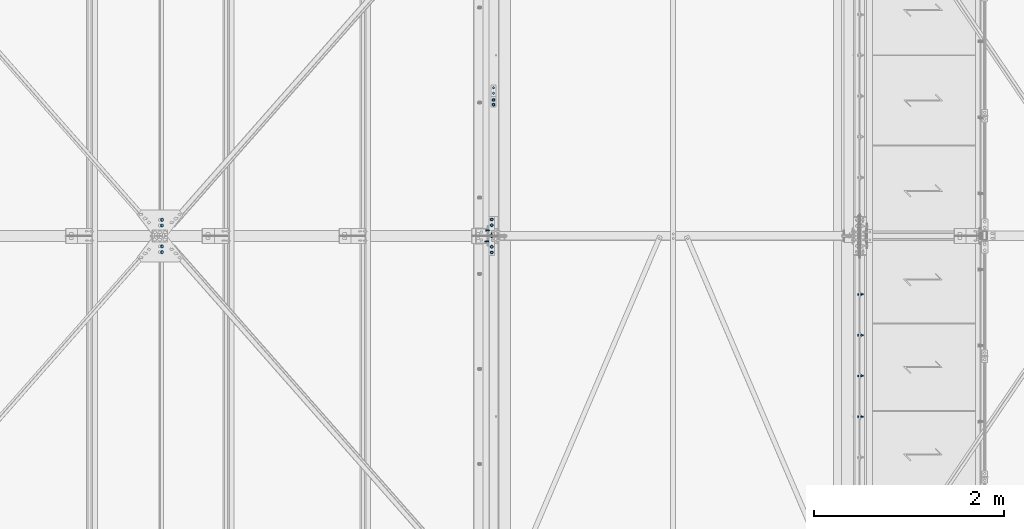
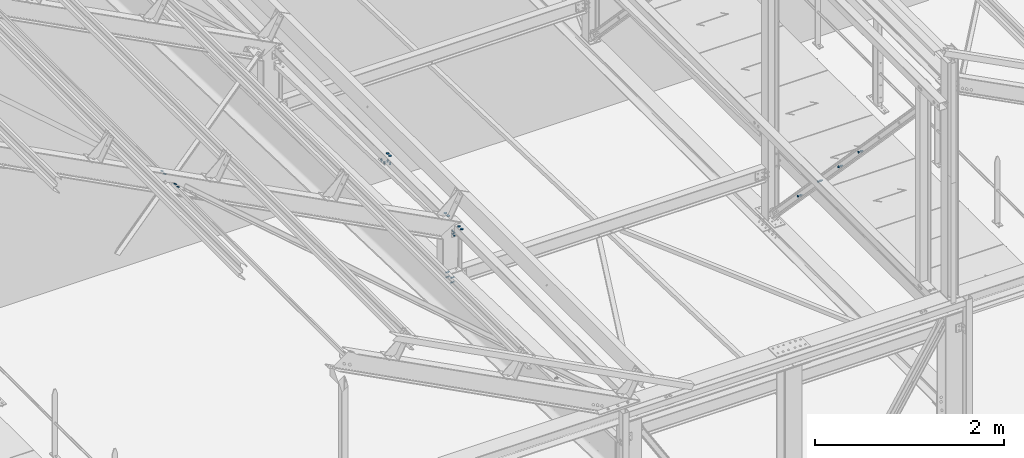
# One storey, part 262 of 362: 14 mechanical fasteners.
"""IFC2X3 building model written with IfcOpenShell, lengths in millimetres."""

from ifc_helpers import new_model, si_unit, frame, frame_2d, origin_with_axes, origin_2d_with_axis, place, context, subcontext, project, spatial, polyline, circle_curve, parameter, trimmed, segment, composite_curve, circle, outline, extrude, source, transform, mapped, material, type_object, element, save


model = new_model("IFC2X3")

# Units and contexts
model_context = context("Model", 3, precision=1e-05, world=origin_with_axes())
body_context = subcontext(model_context, "Body", "Model", "MODEL_VIEW")
ifc_project = project(units=[si_unit("LENGTHUNIT", "METRE", prefix="MILLI"), si_unit("AREAUNIT", "SQUARE_METRE"), si_unit("VOLUMEUNIT", "CUBIC_METRE"), si_unit("MASSUNIT", "GRAM", prefix="KILO"), si_unit("TIMEUNIT", "SECOND"), si_unit("PLANEANGLEUNIT", "RADIAN"), si_unit("SOLIDANGLEUNIT", "STERADIAN"), si_unit("THERMODYNAMICTEMPERATUREUNIT", "DEGREE_CELSIUS"), si_unit("LUMINOUSINTENSITYUNIT", "LUMEN")], contexts=[model_context])

# Site, building, storey
site_placement = place(None, origin_with_axes())
site = spatial("IfcSite", under=ifc_project, at=site_placement, Name="Undefined", CompositionType="ELEMENT")
building_placement = place(site_placement, origin_with_axes())
building = spatial("IfcBuilding", under=site, at=building_placement, Name="Undefined", CompositionType="ELEMENT")
storey_placement = place(building_placement, origin_with_axes())
storey = spatial("IfcBuildingStorey", under=building, at=storey_placement, Name="Undefined", CompositionType="ELEMENT", Elevation=0.0)

# Mechanical fasteners
ifc_material_1 = material(Name="6.8")
mechanical_fastener_type = type_object("IfcMechanicalFastenerType", Name="Bolt assembly")
shared_shape_1 = source(origin_with_axes(), body_context, "Body", "SweptSolid", [
    extrude(circle(Radius=15.0, at=origin_2d_with_axis()), frame((0.0, 0.0, 0.0), z_axis=(0.0, 1.0, 0.0), x_axis=(1.0, 0.0, 0.0)), (0.0, 0.0, 1.0), 4.1),
])
mechanical_fastener_1_placement = place(storey_placement, frame((19619.9999999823, 5230.39, 8550.0), z_axis=(1.0, 0.0, 0.0), x_axis=(0.0, -1.0, 0.0)))
element("IfcMechanicalFastener", 1, at=mechanical_fastener_1_placement, inside=storey, type_object=mechanical_fastener_type, material=ifc_material_1, Name="Bolt assembly", NominalDiameter=30.0, NominalLength=4.0, context=body_context, shape_type="MappedRepresentation", body=[
    mapped(shared_shape_1, transform((0.0, 0.0, 0.0))),
    mapped(shared_shape_1, transform((49.9999999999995, 0.0, -3.63797880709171e-12))),
])
for number, where, z_axis, x_axis, name in (
    (2, (19599.9999999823, 3973.5, 8550.0), (1.0, 0.0, 0.0), (0.0, -1.0, 0.0), "Bolt assembly"),
    (3, (19599.9999999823, 3626.5, 8550.0), (-1.0, 0.0, 0.0), (0.0, 1.0, 0.0), "Bolt assembly"),
):
    element("IfcMechanicalFastener", number, at=place(storey_placement, frame(where, z_axis=z_axis, x_axis=x_axis)), inside=storey, type_object=mechanical_fastener_type, material=ifc_material_1, Name=name, NominalDiameter=30.0, NominalLength=4.0, context=body_context, shape_type="MappedRepresentation", body=[
        mapped(shared_shape_1, transform((0.0, 0.0, 0.0))),
        mapped(shared_shape_1, transform((60.0, 0.0, 0.0))),
    ])
ifc_material_2 = material(Name="8.8-SB-ZINGUE")
shared_shape_2 = source(origin_with_axes(), body_context, "Body", "SweptSolid", [
    extrude(circle(Radius=9.0, at=origin_2d_with_axis()), frame((0.0, -10.9000000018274, 0.0), z_axis=(0.0, 1.0, 0.0), x_axis=(1.0, 0.0, 0.0)), (0.0, 0.0, 1.0), 6.0),
    extrude(circle(Radius=9.0, at=origin_2d_with_axis()), frame((0.0, 4.9000000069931, 0.0), z_axis=(0.0, 1.0, 0.0), x_axis=(1.0, 0.0, 0.0)), (0.0, 0.0, 1.0), 6.1),
    extrude(circle(Radius=9.0, at=origin_2d_with_axis()), frame((0.0, -3.99999923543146, 0.0), z_axis=(0.0, 1.0, 0.0), x_axis=(1.0, 0.0, 0.0)), (0.0, 0.0, 1.0), 8.0),
    extrude(outline(polyline([(13.85640646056, 0.0), (6.92820323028, 12.0000000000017), (-6.92820323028, 12.0000000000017), (-13.85640646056, 0.0), (-6.92820323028, -12.0000000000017), (6.92820323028, -12.0000000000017), (13.85640646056, 0.0)])), frame((0.0, -21.5600000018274, 0.0), z_axis=(0.0, 1.0, 0.0), x_axis=(1.0, 0.0, 0.0)), (0.0, 0.0, 1.0), 10.56),
    extrude(circle(Radius=8.0, at=origin_2d_with_axis()), frame((0.0, -11.0000000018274, 0.0), z_axis=(0.0, 1.0, 0.0), x_axis=(1.0, 0.0, 0.0)), (0.0, 0.0, 1.0), 50.0),
    extrude(outline(polyline([(15.3344231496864, 0.0), (7.6672115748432, 13.2800000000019), (-7.6672115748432, 13.2800000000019), (-15.3344231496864, 0.0), (-7.6672115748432, -13.2800000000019), (7.6672115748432, -13.2800000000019), (15.3344231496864, 0.0)])), frame((0.0, 11.0000000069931, 0.0), z_axis=(0.0, 1.0, 0.0), x_axis=(1.0, 0.0, 0.0)), (0.0, 0.0, 1.0), 10.56),
])
for number, where, z_axis, x_axis, name in (
    (4, (23470.0, 1900.00276186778, 9243.00000036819), (0.0, 1.0, 0.0), (0.0, 0.0, 1.0), "Bolt assembly"),
    (5, (23470.0, 2328.42590523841, 8793.60602083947), (0.0, 1.0, 0.0), (0.0, 0.0, 1.0), "Bolt assembly"),
    (6, (23470.0, 2756.84904860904, 8344.21204131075), (0.0, 1.0, 0.0), (0.0, 0.0, 1.0), "Bolt assembly"),
    (7, (23470.0, 3185.27219197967, 7894.81806178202), (0.0, 1.0, 0.0), (0.0, 0.0, 1.0), "Bolt assembly"),
):
    element("IfcMechanicalFastener", number, at=place(storey_placement, frame(where, z_axis=z_axis, x_axis=x_axis)), inside=storey, type_object=mechanical_fastener_type, material=ifc_material_2, Name=name, NominalDiameter=16.0, NominalLength=50.0, context=body_context, shape_type="MappedRepresentation", body=[
        mapped(shared_shape_2, transform((0.0, 0.0, 0.0))),
    ])
shared_shape_3 = source(origin_with_axes(), body_context, "Body", "SweptSolid", [
    extrude(circle(Radius=7.0, at=origin_2d_with_axis()), frame((0.0, -0.100011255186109, 0.0), z_axis=(0.0, 1.0, 0.0), x_axis=(1.0, 0.0, 0.0)), (0.0, 0.0, 1.0), 4.1),
    extrude(circle(Radius=7.0, at=origin_2d_with_axis()), frame((0.0, -5.8999542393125, 0.0), z_axis=(0.0, 1.0, 0.0), x_axis=(1.0, 0.0, 0.0)), (0.0, 0.0, 1.0), 6.0),
    extrude(outline(polyline([(10.39230484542, 0.0), (5.19615242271, 9.00000000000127), (-5.19615242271, 9.00000000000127), (-10.39230484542, 0.0), (-5.19615242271, -9.00000000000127), (5.19615242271, -9.00000000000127), (10.39230484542, 0.0)])), frame((0.0, -13.9199542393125, 0.0), z_axis=(0.0, 1.0, 0.0), x_axis=(1.0, 0.0, 0.0)), (0.0, 0.0, 1.0), 7.92),
    extrude(circle(Radius=6.0, at=origin_2d_with_axis()), frame((0.0, -5.9999542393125, 0.0), z_axis=(0.0, 1.0, 0.0), x_axis=(1.0, 0.0, 0.0)), (0.0, 0.0, 1.0), 30.0),
    extrude(outline(polyline([(11.5008173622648, 0.0), (5.7504086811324, 9.96000000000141), (-5.7504086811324, 9.96000000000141), (-11.5008173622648, 0.0), (-5.7504086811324, -9.96000000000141), (5.7504086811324, -9.96000000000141), (11.5008173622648, 0.0)])), frame((0.0, 4.00000005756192, 0.0), z_axis=(0.0, 1.0, 0.0), x_axis=(1.0, 0.0, 0.0)), (0.0, 0.0, 1.0), 7.92),
])
mechanical_fastener_2_placement = place(storey_placement, frame((19619.9999999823, 5180.38587692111, 8450.0), z_axis=(1.0, 0.0, 0.0), x_axis=(0.0, 1.0, 0.0)))
element("IfcMechanicalFastener", 8, at=mechanical_fastener_2_placement, inside=storey, type_object=mechanical_fastener_type, material=ifc_material_2, Name="Bolt assembly", NominalDiameter=12.0, NominalLength=30.0, context=body_context, shape_type="MappedRepresentation", body=[
    mapped(shared_shape_3, transform((0.0, 0.0, 0.0))),
    mapped(shared_shape_3, transform((49.9999999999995, 0.0, -3.63797880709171e-12))),
])
shared_shape_4 = source(origin_with_axes(), body_context, "Body", "SweptSolid", [
    extrude(circle(Radius=7.0, at=origin_2d_with_axis()), frame((0.0, -0.100011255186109, 0.0), z_axis=(0.0, 1.0, 0.0), x_axis=(1.0, 0.0, 0.0)), (0.0, 0.0, 1.0), 4.1),
    extrude(outline(composite_curve([segment(polyline([(-7.0, 7.0), (7.0, 7.0)]), True, "CONTINUOUS"), segment(trimmed(circle_curve(frame_2d((7.0, 0.0), x_axis=(0.0, 1.0)), 7.0), [parameter(0.0)], [parameter(3.14159265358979)], False, "PARAMETER"), True, "CONTINUOUS"), segment(polyline([(7.0, -7.0), (-7.0, -7.0)]), True, "CONTINUOUS"), segment(trimmed(circle_curve(frame_2d((-7.0, 0.0), x_axis=(0.0, -1.0)), 7.0), [parameter(0.0)], [parameter(3.14159265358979)], False, "PARAMETER"), True, "DISCONTINUOUS")], self_intersect=False)), frame((0.0, -5.8999542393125, 0.0), z_axis=(0.0, 1.0, 0.0), x_axis=(1.0, 0.0, 0.0)), (0.0, 0.0, 1.0), 6.0),
    extrude(outline(polyline([(10.39230484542, 0.0), (5.19615242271, 9.00000000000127), (-5.19615242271, 9.00000000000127), (-10.39230484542, 0.0), (-5.19615242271, -9.00000000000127), (5.19615242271, -9.00000000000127), (10.39230484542, 0.0)])), frame((0.0, -17.8800021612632, 0.0), z_axis=(0.0, 1.0, 0.0), x_axis=(1.0, 0.0, 0.0)), (0.0, 0.0, 1.0), 7.92),
    extrude(circle(Radius=6.0, at=origin_2d_with_axis()), frame((0.0, -9.96000216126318, 0.0), z_axis=(0.0, 1.0, 0.0), x_axis=(1.0, 0.0, 0.0)), (0.0, 0.0, 1.0), 30.0),
    extrude(circle(Radius=10.8, at=origin_2d_with_axis()), frame((0.0, -9.96000216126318, 0.0), z_axis=(0.0, 1.0, 0.0), x_axis=(1.0, 0.0, 0.0)), (0.0, 0.0, 1.0), 3.96),
    extrude(outline(polyline([(11.5008173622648, 0.0), (5.7504086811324, 9.96000000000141), (-5.7504086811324, 9.96000000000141), (-11.5008173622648, 0.0), (-5.7504086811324, -9.96000000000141), (5.7504086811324, -9.96000000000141), (11.5008173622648, 0.0)])), frame((0.0, 4.00000005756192, 0.0), z_axis=(0.0, 1.0, 0.0), x_axis=(1.0, 0.0, 0.0)), (0.0, 0.0, 1.0), 7.92),
])
mechanical_fastener_3_placement = place(storey_placement, frame((19619.9999999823, 5359.3365202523, 8386.85855943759), z_axis=(1.0, 0.0, 0.0), x_axis=(0.0, -0.999506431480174, 0.0314148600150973)))
element("IfcMechanicalFastener", 9, at=mechanical_fastener_3_placement, inside=storey, type_object=mechanical_fastener_type, material=ifc_material_2, Name="Bolt assembly", NominalDiameter=12.0, NominalLength=30.0, context=body_context, shape_type="MappedRepresentation", body=[
    mapped(shared_shape_4, transform((0.0, 0.0, 0.0))),
    mapped(shared_shape_4, transform((60.0, 0.0, 0.0))),
])
shared_shape_5 = source(origin_with_axes(), body_context, "Body", "SweptSolid", [
    extrude(circle(Radius=15.0, at=origin_2d_with_axis()), frame((0.0, 6.26397177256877e-05, 0.0), z_axis=(0.0, 1.0, 0.0), x_axis=(1.0, 0.0, 0.0)), (0.0, 0.0, 1.0), 4.1),
])
for number, where, z_axis, x_axis, name in (
    (10, (16133.5387680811, 3690.0011719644, 10309.7134712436), (0.886082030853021, 2.26635428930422e-05, -0.463528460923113), (2.01259999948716e-05, -0.999999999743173, -1.04209999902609e-05), "Bolt assembly"),
    (11, (16133.5387647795, 3909.99893167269, 10309.7134712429), (-0.886082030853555, 2.26369604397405e-05, 0.463528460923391), (2.00950000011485e-05, 0.999999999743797, -1.04209999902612e-05), "Bolt assembly"),
):
    element("IfcMechanicalFastener", number, at=place(storey_placement, frame(where, z_axis=z_axis, x_axis=x_axis)), inside=storey, type_object=mechanical_fastener_type, material=ifc_material_1, Name=name, NominalDiameter=30.0, NominalLength=4.0, context=body_context, shape_type="MappedRepresentation", body=[
        mapped(shared_shape_5, transform((0.0, 0.0, 0.0))),
        mapped(shared_shape_5, transform((60.0, 0.0, 0.0))),
    ])
shared_shape_6 = source(origin_with_axes(), body_context, "Body", "SweptSolid", [
    extrude(circle(Radius=7.0, at=origin_2d_with_axis()), frame((0.0, -3.10006822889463, 0.0), z_axis=(0.0, 1.0, 0.0), x_axis=(1.0, 0.0, 0.0)), (0.0, 0.0, 1.0), 6.2),
    extrude(circle(Radius=7.0, at=origin_2d_with_axis()), frame((0.0, 3.3998951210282, 0.0), z_axis=(0.0, 1.0, 0.0), x_axis=(1.0, 0.0, 0.0)), (0.0, 0.0, 1.0), 10.1),
    extrude(circle(Radius=7.0, at=origin_2d_with_axis()), frame((0.0, -13.4001048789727, 0.0), z_axis=(0.0, 1.0, 0.0), x_axis=(1.0, 0.0, 0.0)), (0.0, 0.0, 1.0), 10.0),
    extrude(outline(polyline([(10.39230484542, 0.0), (5.19615242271, 9.00000000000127), (-5.19615242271, 9.00000000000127), (-10.39230484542, 0.0), (-5.19615242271, -9.00000000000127), (5.19615242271, -9.00000000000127), (10.39230484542, 0.0)])), frame((0.0, -21.4201048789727, 0.0), z_axis=(0.0, 1.0, 0.0), x_axis=(1.0, 0.0, 0.0)), (0.0, 0.0, 1.0), 7.92),
    extrude(circle(Radius=6.0, at=origin_2d_with_axis()), frame((0.0, -13.5000574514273, 0.0), z_axis=(0.0, 1.0, 0.0), x_axis=(1.0, 0.0, 0.0)), (0.0, 0.0, 1.0), 50.0),
    extrude(outline(polyline([(11.5008173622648, 0.0), (5.7504086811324, 9.96000000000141), (-5.7504086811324, 9.96000000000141), (-11.5008173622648, 0.0), (-5.7504086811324, -9.96000000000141), (5.7504086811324, -9.96000000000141), (11.5008173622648, 0.0)])), frame((0.0, 13.4998951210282, 0.0), z_axis=(0.0, 1.0, 0.0), x_axis=(1.0, 0.0, 0.0)), (0.0, 0.0, 1.0), 7.92),
])
mechanical_fastener_4_placement = place(storey_placement, frame((19599.9999999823, 3800.00010487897, 8370.0), z_axis=(-1.0, 0.0, 0.0), x_axis=(0.0, 0.0, 1.0)))
element("IfcMechanicalFastener", 12, at=mechanical_fastener_4_placement, inside=storey, type_object=mechanical_fastener_type, material=ifc_material_2, Name="Bolt assembly", NominalDiameter=12.0, NominalLength=50.0, context=body_context, shape_type="MappedRepresentation", body=[
    mapped(shared_shape_6, transform((0.0, 0.0, 0.0))),
    mapped(shared_shape_6, transform((40.0, 0.0, 0.0))),
])
shared_shape_7 = source(origin_with_axes(), body_context, "Body", "SweptSolid", [
    extrude(circle(Radius=7.0, at=origin_2d_with_axis()), frame((0.0, -5.45000018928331, 0.0), z_axis=(0.0, 1.0, 0.0), x_axis=(1.0, 0.0, 0.0)), (0.0, 0.0, 1.0), 11.1),
    extrude(circle(Radius=7.0, at=origin_2d_with_axis()), frame((0.0, 5.90002706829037, 0.0), z_axis=(0.0, 1.0, 0.0), x_axis=(1.0, 0.0, 0.0)), (0.0, 0.0, 1.0), 10.1),
    extrude(outline(polyline([(10.39230484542, 0.0), (5.19615242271, 9.00000000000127), (-5.19615242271, 9.00000000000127), (-10.39230484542, 0.0), (-5.19615242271, -9.00000000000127), (5.19615242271, -9.00000000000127), (10.39230484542, 0.0)])), frame((0.0, -13.4700001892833, 0.0), z_axis=(0.0, 1.0, 0.0), x_axis=(1.0, 0.0, 0.0)), (0.0, 0.0, 1.0), 7.92),
    extrude(circle(Radius=6.0, at=origin_2d_with_axis()), frame((0.0, -5.55000018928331, 0.0), z_axis=(0.0, 1.0, 0.0), x_axis=(1.0, 0.0, 0.0)), (0.0, 0.0, 1.0), 40.0),
    extrude(outline(polyline([(11.5008173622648, 0.0), (5.7504086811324, 9.96000000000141), (-5.7504086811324, 9.96000000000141), (-11.5008173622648, 0.0), (-5.7504086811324, -9.96000000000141), (5.7504086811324, -9.96000000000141), (11.5008173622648, 0.0)])), frame((0.0, 15.9999999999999, 0.0), z_axis=(0.0, 1.0, 0.0), x_axis=(1.0, 0.0, 0.0)), (0.0, 0.0, 1.0), 7.92),
])
mechanical_fastener_5_placement = place(storey_placement, frame((19550.0, 3857.97780378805, 7838.71386842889), z_axis=(7.58071938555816e-11, 0.0314107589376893, 0.999506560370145), x_axis=(0.0, -0.999506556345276, 0.031410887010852)))
element("IfcMechanicalFastener", 13, at=mechanical_fastener_5_placement, inside=storey, type_object=mechanical_fastener_type, material=ifc_material_2, Name="Bolt assembly", NominalDiameter=12.0, NominalLength=40.0, context=body_context, shape_type="MappedRepresentation", body=[
    mapped(shared_shape_7, transform((0.0, 0.0, -30.0))),
    mapped(shared_shape_7, transform((0.0, 0.0, 30.0))),
])
shared_shape_8 = source(origin_with_axes(), body_context, "Body", "SweptSolid", [
    extrude(circle(Radius=7.0, at=origin_2d_with_axis()), frame((0.0, -5.65000019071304, 0.0), z_axis=(0.0, 1.0, 0.0), x_axis=(1.0, 0.0, 0.0)), (0.0, 0.0, 1.0), 11.2),
    extrude(circle(Radius=7.0, at=origin_2d_with_axis()), frame((0.0, -15.9000004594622, 0.0), z_axis=(0.0, 1.0, 0.0), x_axis=(1.0, 0.0, 0.0)), (0.0, 0.0, 1.0), 10.0),
    extrude(outline(polyline([(10.39230484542, 0.0), (5.19615242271, 9.00000000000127), (-5.19615242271, 9.00000000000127), (-10.39230484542, 0.0), (-5.19615242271, -9.00000000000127), (5.19615242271, -9.00000000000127), (10.39230484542, 0.0)])), frame((0.0, -23.9200004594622, 0.0), z_axis=(0.0, 1.0, 0.0), x_axis=(1.0, 0.0, 0.0)), (0.0, 0.0, 1.0), 7.92),
    extrude(circle(Radius=6.0, at=origin_2d_with_axis()), frame((0.0, -16.0000004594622, 0.0), z_axis=(0.0, 1.0, 0.0), x_axis=(1.0, 0.0, 0.0)), (0.0, 0.0, 1.0), 40.0),
    extrude(outline(polyline([(11.5008173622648, 0.0), (5.7504086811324, 9.96000000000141), (-5.7504086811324, 9.96000000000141), (-11.5008173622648, 0.0), (-5.7504086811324, -9.96000000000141), (5.7504086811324, -9.96000000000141), (11.5008173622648, 0.0)])), frame((0.0, 5.55000018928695, 0.0), z_axis=(0.0, 1.0, 0.0), x_axis=(1.0, 0.0, 0.0)), (0.0, 0.0, 1.0), 7.92),
])
mechanical_fastener_6_placement = place(storey_placement, frame((19550.0, 3742.03418260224, 7842.35759680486), z_axis=(7.58071938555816e-11, 0.0314107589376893, 0.999506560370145), x_axis=(3.14103090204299e-11, 0.999506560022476, -0.0314107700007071)))
element("IfcMechanicalFastener", 14, at=mechanical_fastener_6_placement, inside=storey, type_object=mechanical_fastener_type, material=ifc_material_2, Name="Bolt assembly", NominalDiameter=12.0, NominalLength=40.0, context=body_context, shape_type="MappedRepresentation", body=[
    mapped(shared_shape_8, transform((0.0, 0.0, -30.0))),
    mapped(shared_shape_8, transform((0.0, 0.0, 30.0))),
])

save(model, "model.ifc")
